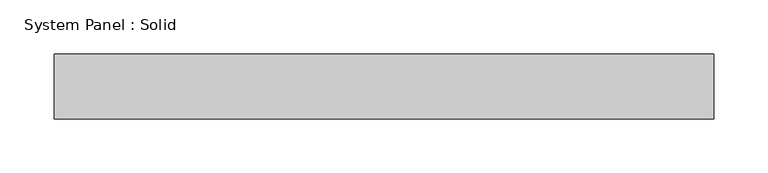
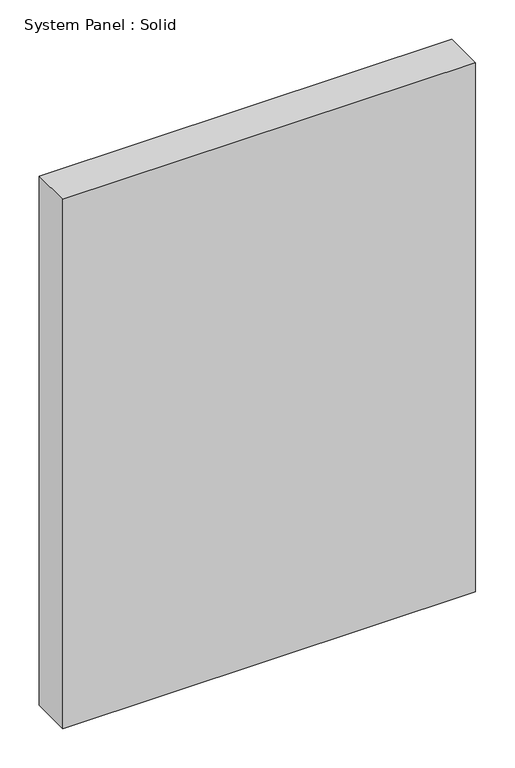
"""IFC4 building model written with IfcOpenShell, lengths in millimetres: plate geometry, System Panel : Solid."""

from ifc_helpers import new_model, si_unit, origin, origin_with_axes, place, context, project, spatial, polyline, outline, extrude, source, transform, mapped, element, save


def system_panel_solid_4de7fab2(model_context):
    return source(origin(), model_context, "Body", "SweptSolid", [
        extrude(outline(polyline([(304.5833334, -10.5), (-304.5833334, -10.5), (-304.5833334, 49.5), (304.5833334, 49.5), (304.5833334, -10.5)])), origin_with_axes(), (0.0, 0.0, 1.0), 825.0),
    ])


if __name__ == "__main__":
    model = new_model("IFC4")
    model_context = context("Model", 3, world=origin())
    ifc_project = project(units=[si_unit("LENGTHUNIT", "METRE", prefix="MILLI")], contexts=[model_context])
    site = spatial("IfcSite", under=ifc_project)
    building = spatial("IfcBuilding", under=site)
    placement = place(None, origin())
    system_panel_solid_shape = system_panel_solid_4de7fab2(model_context)
    element("IfcPlate", 1, ObjectType="System Panel : Solid", at=placement, inside=building, context=model_context, shape_type="MappedRepresentation", body=[
        mapped(system_panel_solid_shape, transform((0.0, 0.0, 0.0), x_axis=(1.0, 0.0, 0.0), y_axis=(0.0, 1.0, 0.0), z_axis=(0.0, 0.0, 1.0))),
    ])
    save(model, "model.ifc")
